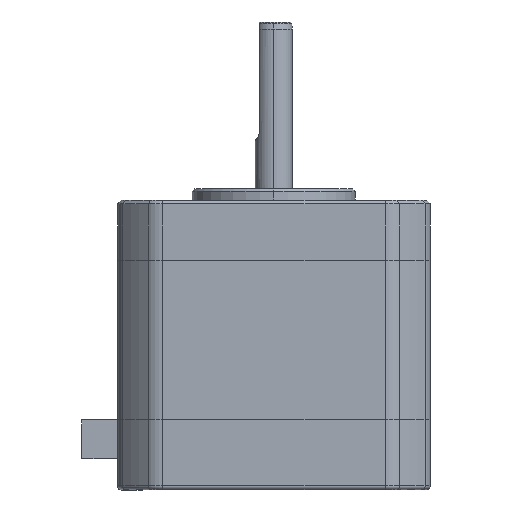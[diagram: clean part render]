
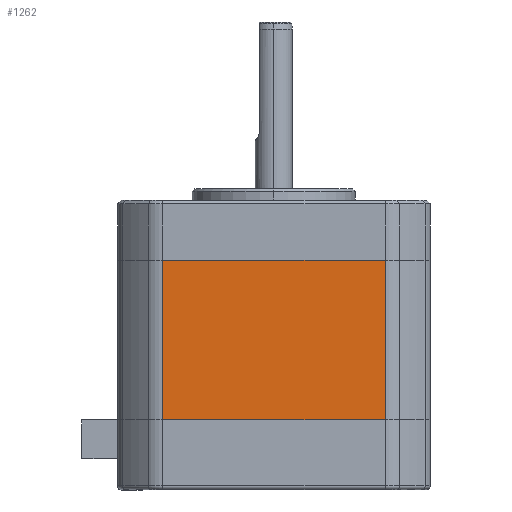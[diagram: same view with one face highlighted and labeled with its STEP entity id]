
A CAD part, left-side view. The second image highlights one B-rep face of the part: STEP entity #1262.
In plain terms, the highlighted planar face has unit normal (-1, 0, 0).
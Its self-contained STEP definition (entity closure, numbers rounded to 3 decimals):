
#259 = CARTESIAN_POINT ( 'NONE',  ( -21.075, 15.018, -8.15 ) ) ;
#1262 = ADVANCED_FACE ( 'NONE', ( #8626 ), #9433, .F. ) ;
#1317 = ORIENTED_EDGE ( 'NONE', *, *, #10305, .T. ) ;
#1522 = LINE ( 'NONE', #12082, #9474 ) ;
#1911 = DIRECTION ( 'NONE',  ( 0., 0., -1. ) ) ;
#2417 = CARTESIAN_POINT ( 'NONE',  ( -21.075, -15.018, -29.65 ) ) ;
#2663 = VECTOR ( 'NONE', #4721, 1000. ) ;
#2974 = ORIENTED_EDGE ( 'NONE', *, *, #5169, .F. ) ;
#3228 = VERTEX_POINT ( 'NONE', #10613 ) ;
#3619 = VECTOR ( 'NONE', #1911, 1000. ) ;
#4721 = DIRECTION ( 'NONE',  ( 0., 1., 0. ) ) ;
#5169 = EDGE_CURVE ( 'NONE', #11264, #3228, #1522, .T. ) ;
#5673 = CARTESIAN_POINT ( 'NONE',  ( -21.075, -15.018, -29.65 ) ) ;
#5758 = LINE ( 'NONE', #9884, #2663 ) ;
#6394 = LINE ( 'NONE', #10207, #3619 ) ;
#7633 = EDGE_CURVE ( 'NONE', #10983, #8038, #5758, .T. ) ;
#8038 = VERTEX_POINT ( 'NONE', #259 ) ;
#8258 = CARTESIAN_POINT ( 'NONE',  ( -21.075, -15.018, -8.15 ) ) ;
#8451 = DIRECTION ( 'NONE',  ( 1., 0., 0. ) ) ;
#8618 = DIRECTION ( 'NONE',  ( 0., 0., 1. ) ) ;
#8626 = FACE_OUTER_BOUND ( 'NONE', #8839, .T. ) ;
#8839 = EDGE_LOOP ( 'NONE', ( #10852, #1317, #2974, #9319 ) ) ;
#8846 = LINE ( 'NONE', #2417, #10615 ) ;
#9319 = ORIENTED_EDGE ( 'NONE', *, *, #9977, .T. ) ;
#9390 = AXIS2_PLACEMENT_3D ( 'NONE', #9391, #8451, #9534 ) ;
#9391 = CARTESIAN_POINT ( 'NONE',  ( -21.075, -16.065, -29.65 ) ) ;
#9433 = PLANE ( 'NONE',  #9390 ) ;
#9474 = VECTOR ( 'NONE', #13176, 1000. ) ;
#9534 = DIRECTION ( 'NONE',  ( 0., 1., 0. ) ) ;
#9884 = CARTESIAN_POINT ( 'NONE',  ( -21.075, -16.065, -8.15 ) ) ;
#9977 = EDGE_CURVE ( 'NONE', #11264, #10983, #8846, .T. ) ;
#10207 = CARTESIAN_POINT ( 'NONE',  ( -21.075, 15.018, -29.65 ) ) ;
#10305 = EDGE_CURVE ( 'NONE', #8038, #3228, #6394, .T. ) ;
#10613 = CARTESIAN_POINT ( 'NONE',  ( -21.075, 15.018, -29.65 ) ) ;
#10615 = VECTOR ( 'NONE', #8618, 1000. ) ;
#10852 = ORIENTED_EDGE ( 'NONE', *, *, #7633, .T. ) ;
#10983 = VERTEX_POINT ( 'NONE', #8258 ) ;
#11264 = VERTEX_POINT ( 'NONE', #5673 ) ;
#12082 = CARTESIAN_POINT ( 'NONE',  ( -21.075, -16.065, -29.65 ) ) ;
#13176 = DIRECTION ( 'NONE',  ( 0., 1., 0. ) ) ;
